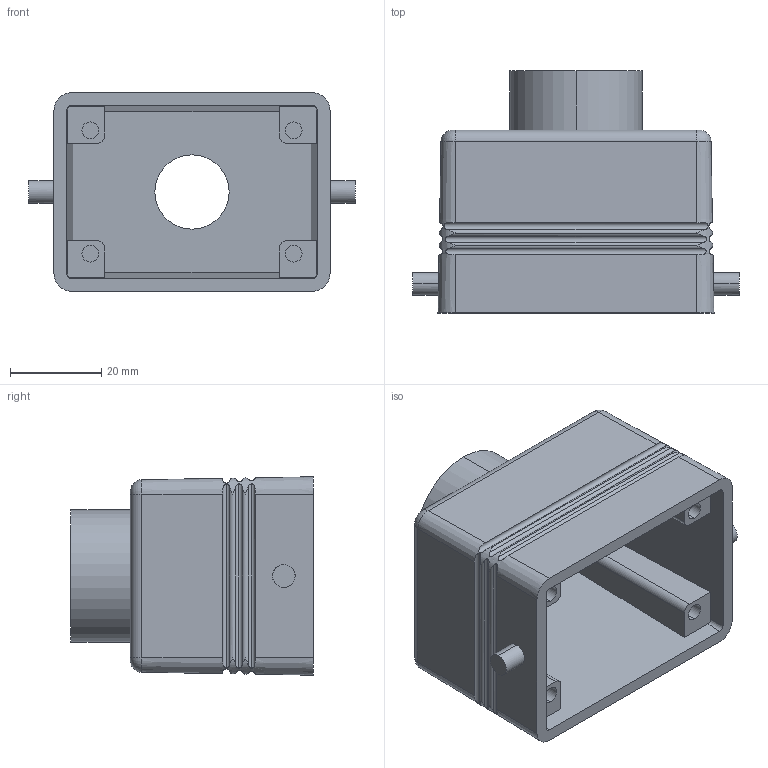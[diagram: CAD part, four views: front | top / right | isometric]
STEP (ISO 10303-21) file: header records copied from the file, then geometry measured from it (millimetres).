
FILE_DESCRIPTION (( 'STEP AP214' ), '1' );
FILE_NAME ('CHVT-06.4L.STEP', '2009-10-30T18:20:43', ( '' ), ( '' ), 'SwSTEP 2.0', 'SolidWorks 2009', '' );
FILE_SCHEMA (( 'AUTOMOTIVE_DESIGN' ));
Length unit declared in the file: inch
Products named in the file (1): CHVT-06.4L
Bounding box: 71.48 x 53.02 x 43.43 mm (x, y, z)
Volume: 40362.8 mm3; surface area: 22100.9 mm2
Topology: 1 solids, 1 shells, 107 faces, 292 edges, 196 vertices
Faces by surface type: cylinder 58, plane 37, cone 8, torus 4
Entity records: 5385 total; most frequent: CARTESIAN_POINT 1324, ORIENTED_EDGE 584, DIRECTION 496, EDGE_CURVE 292, VERTEX_POINT 196, AXIS2_PLACEMENT_3D 176, LINE 144, VECTOR 144
